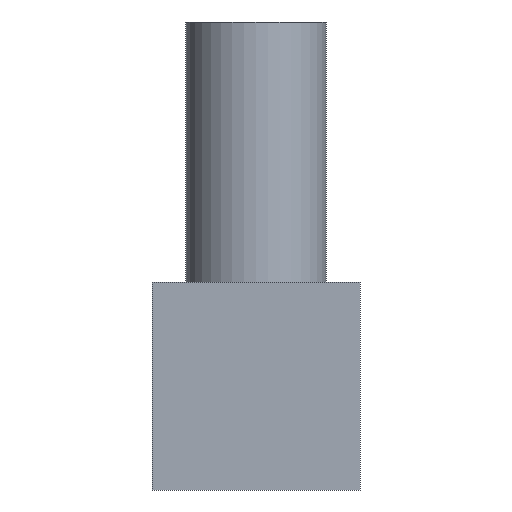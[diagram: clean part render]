
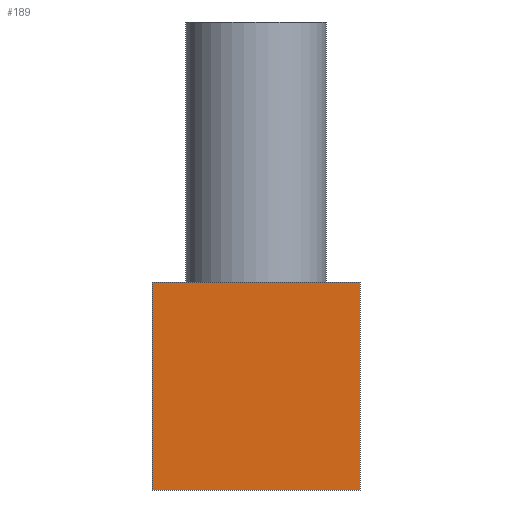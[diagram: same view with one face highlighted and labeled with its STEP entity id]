
A CAD part, front view. The second image highlights one B-rep face of the part: STEP entity #189.
In plain terms, the highlighted planar face has unit normal (0, -1, 0).
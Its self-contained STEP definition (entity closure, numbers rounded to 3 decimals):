
#2=DIRECTION('',(1.,0.,0.));
#3=VECTOR('',#2,4.);
#4=CARTESIAN_POINT('',(-2.,0.,2.));
#5=LINE('',#4,#3);
#6=DIRECTION('',(0.,0.,-1.));
#7=VECTOR('',#6,4.);
#8=CARTESIAN_POINT('',(2.,0.,2.));
#9=LINE('',#8,#7);
#10=DIRECTION('',(-1.,0.,0.));
#11=VECTOR('',#10,4.);
#12=CARTESIAN_POINT('',(2.,0.,-2.));
#13=LINE('',#12,#11);
#14=DIRECTION('',(0.,0.,1.));
#15=VECTOR('',#14,4.);
#16=CARTESIAN_POINT('',(-2.,0.,-2.));
#17=LINE('',#16,#15);
#134=CARTESIAN_POINT('',(-2.,0.,2.));
#135=CARTESIAN_POINT('',(2.,0.,2.));
#136=VERTEX_POINT('',#134);
#137=VERTEX_POINT('',#135);
#138=CARTESIAN_POINT('',(2.,0.,-2.));
#139=VERTEX_POINT('',#138);
#140=CARTESIAN_POINT('',(-2.,0.,-2.));
#141=VERTEX_POINT('',#140);
#174=CARTESIAN_POINT('',(0.,0.,0.));
#175=DIRECTION('',(0.,1.,0.));
#176=DIRECTION('',(1.,0.,0.));
#177=AXIS2_PLACEMENT_3D('',#174,#175,#176);
#178=PLANE('',#177);
#180=ORIENTED_EDGE('',*,*,#179,.T.);
#182=ORIENTED_EDGE('',*,*,#181,.T.);
#184=ORIENTED_EDGE('',*,*,#183,.T.);
#186=ORIENTED_EDGE('',*,*,#185,.T.);
#187=EDGE_LOOP('',(#180,#182,#184,#186));
#188=FACE_OUTER_BOUND('',#187,.F.);
#189=ADVANCED_FACE('',(#188),#178,.F.);
#179=EDGE_CURVE('',#136,#137,#5,.T.);
#181=EDGE_CURVE('',#137,#139,#9,.T.);
#183=EDGE_CURVE('',#139,#141,#13,.T.);
#185=EDGE_CURVE('',#141,#136,#17,.T.);
